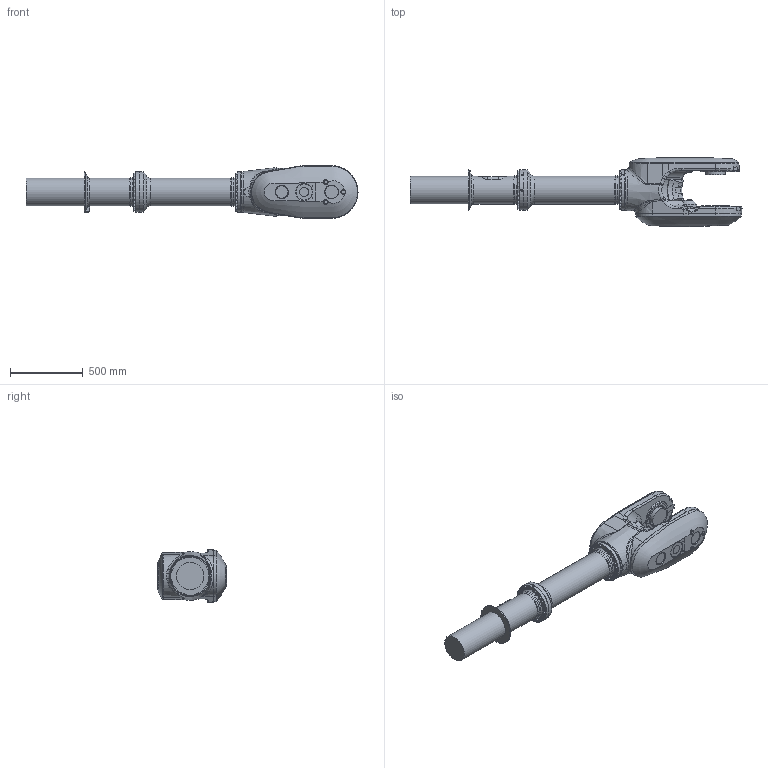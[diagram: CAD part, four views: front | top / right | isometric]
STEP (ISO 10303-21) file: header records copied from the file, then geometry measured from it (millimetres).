
FILE_DESCRIPTION (( 'STEP AP214' ), '1' );
FILE_NAME ('IRB77X0_All-350_OC_00_LINK04_CAD.step', '2026-01-28T09:36:46', ( '' ), ( '' ), 'SwSTEP 2.0', 'SolidWorks 2024', '' );
FILE_SCHEMA (( 'AUTOMOTIVE_DESIGN' ));
Length unit declared in the file: millimetre
Products named in the file (1): IRB77X0_All-350_OC_00_LINK04_CAD
Bounding box: 2286.38 x 475.5 x 362.3 mm (x, y, z)
Volume: 115638837.8 mm3; surface area: 2431673.7 mm2
Topology: 1 solids, 1 shells, 700 faces, 1736 edges, 1129 vertices
Faces by surface type: plane 291, cylinder 146, bspline 142, cone 113, torus 8
Full cylindrical faces by diameter (mm): 4.8 x2, 6.8 x6, 8.3 x2, 10.5 x1, 12 x3, 17.9 x2, 18 x2, 18.27 x50, 24 x1, 27 x1, 28 x4, 90 x1, 134 x1, 140 x1, 189.5 x1, 190 x3, 192 x2, 195 x2, 280 x4
Entity records: 38850 total; most frequent: CARTESIAN_POINT 17216, ORIENTED_EDGE 2966, DIRECTION 2448, EDGE_CURVE 1483, VERTEX_POINT 1027, AXIS2_PLACEMENT_3D 963, EDGE_LOOP 942, FACE_OUTER_BOUND 797
